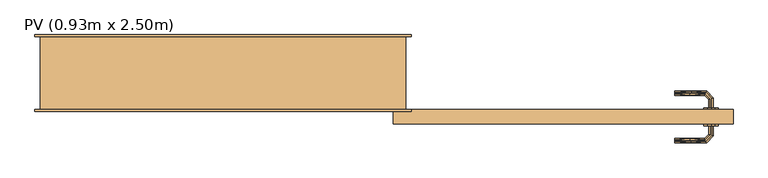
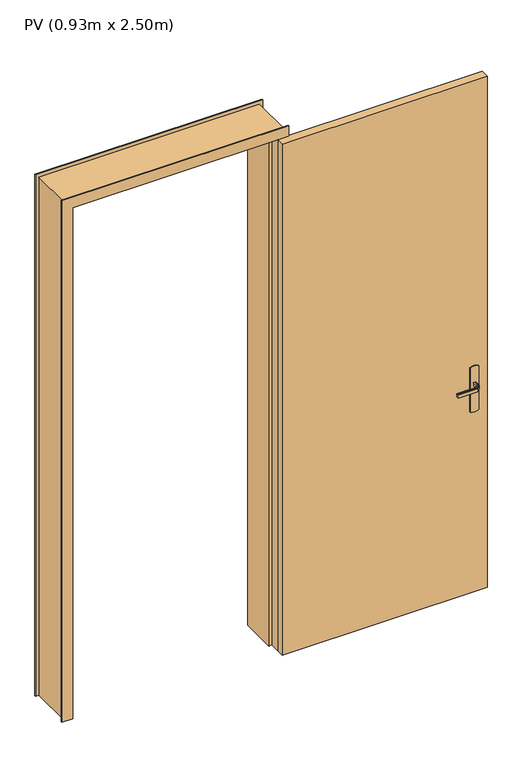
"""IFC4 building model written with IfcOpenShell, lengths in millimetres: door geometry, PV (0.93m x 2.50m)."""

from ifc_helpers import new_model, si_unit, frame, origin, origin_with_axes, place, context, project, spatial, polyline, outline, extrude, faceted_brep, source, transform, mapped, element, save


def pv_0_93m_x_2_50m_4ef5aaf7(model_context):
    return source(origin(), model_context, "Body", "SolidModel", [
        faceted_brep([(0.0, 200.0, 0.0), (-15.0, 200.0, 0.0), (-15.0, 205.0, 0.0), (50.0, 205.0, 0.0), (50.0, 40.0, 0.0), (35.0, 40.0, 0.0), (35.0, -5.0, 0.0), (-15.0, -5.0, 0.0), (-15.0, 0.0, 0.0), (0.0, 0.0, 0.0), (0.0, 200.0, 2485.0), (1000.0, 200.0, 2485.0), (1000.0, 200.0, 0.0), (1015.0, 200.0, 0.0), (1015.0, 200.0, 2500.0), (-15.0, 200.0, 2500.0), (-15.0, 205.0, 2500.0), (1015.0, 205.0, 2500.0), (1015.0, 205.0, 0.0), (950.0, 205.0, 0.0), (950.0, 205.0, 2435.0), (50.0, 205.0, 2435.0), (50.0, 40.0, 2435.0), (950.0, 40.0, 2435.0), (950.0, 40.0, 0.0), (965.0, 40.0, 0.0), (965.0, 40.0, 2450.0), (35.0, 40.0, 2450.0), (35.0, -5.0, 2450.0), (965.0, -5.0, 2450.0), (965.0, -5.0, 0.0), (1015.0, -5.0, 0.0), (1015.0, -5.0, 2500.0), (-15.0, -5.0, 2500.0), (-15.0, 0.0, 2500.0), (1015.0, 0.0, 2500.0), (1015.0, 0.0, 0.0), (1000.0, 0.0, 0.0), (1000.0, 0.0, 2485.0), (0.0, 0.0, 2485.0)], [[[0, 1, 2, 3, 4, 5, 6, 7, 8, 9]], [[1, 0, 10, 11, 12, 13, 14, 15]], [[2, 1, 15, 16]], [[3, 2, 16, 17, 18, 19, 20, 21]], [[3, 21, 22, 4]], [[5, 4, 22, 23, 24, 25, 26, 27]], [[5, 27, 28, 6]], [[7, 6, 28, 29, 30, 31, 32, 33]], [[8, 7, 33, 34]], [[9, 8, 34, 35, 36, 37, 38, 39]], [[0, 9, 39, 10]], [[11, 38, 37, 12]], [[12, 37, 36, 31, 30, 25, 24, 19, 18, 13]], [[17, 14, 13, 18]], [[23, 20, 19, 24]], [[29, 26, 25, 30]], [[35, 32, 31, 36]], [[16, 15, 14, 17]], [[22, 21, 20, 23]], [[28, 27, 26, 29]], [[34, 33, 32, 35]], [[10, 39, 38, 11]]]),
        extrude(outline(polyline([(1083.9960169, 1824.6472382), (1080.0, 1815.0), (870.0, 1815.0), (866.0039831, 1824.6472382), (864.6410162, 1835.0), (866.0039831, 1845.3527618), (870.0, 1855.0), (1080.0, 1855.0), (1083.9960169, 1845.3527618), (1085.3589838, 1835.0), (1083.9960169, 1824.6472382)])), frame((0.0, 0.0, 0.0), z_axis=(0.0, 1.0, 0.0), x_axis=(0.0, 0.0, 1.0)), (0.0, 0.0, 1.0), 5.0),
        faceted_brep([(1837.0252987, 5.0, 1007.7804408), (1832.9747013, 5.0, 1007.7804408), (1829.0, 5.0, 1007.0), (1829.0, 5.0, 993.0), (1832.9747013, 5.0, 992.2195592), (1837.0252987, 5.0, 992.2195592), (1841.0, 5.0, 993.0), (1841.0, 5.0, 1007.0), (1841.0, 32.6509507, 1007.0), (1837.0252987, 31.0045755, 1007.7804408), (1820.9764148, 47.0534593, 1007.7804408), (1819.2986025, 43.002862, 1007.7804408), (1832.9747013, 29.3267632, 1007.7804408), (1829.0, 27.680388, 1007.0), (1829.0, 27.680388, 993.0), (1832.9747013, 29.3267632, 992.2195592), (1819.2986025, 43.002862, 992.2195592), (1820.9764148, 47.0534593, 992.2195592), (1837.0252987, 31.0045755, 992.2195592), (1841.0, 32.6509507, 993.0), (1822.62279, 51.0281607, 1007.0), (1817.6522273, 39.0281607, 1007.0), (1817.6522273, 39.0281607, 993.0), (1822.62279, 51.0281607, 993.0), (1734.9813594, 51.0281607, 993.0), (1734.9813594, 47.0534593, 992.2195592), (1734.9813594, 43.002862, 992.2195592), (1734.9813594, 39.0281607, 993.0), (1734.9813594, 39.0281607, 1007.0), (1734.9813594, 43.002862, 1007.7804408), (1734.9813594, 47.0534593, 1007.7804408), (1734.9813594, 51.0281607, 1007.0), (1782.6923028, 51.0281607, 1007.0), (1777.1399809, 45.0281607, 1007.8786868), (1776.3167933, 39.0281607, 1007.0), (1776.3167933, 39.0281607, 993.0), (1777.1399811, 45.0281608, 992.1213132), (1782.6922998, 51.0281607, 993.0)], [[[0, 1, 2, 3, 4, 5, 6, 7]], [[8, 9, 0, 7]], [[9, 10, 11, 12, 1, 0]], [[12, 13, 2, 1]], [[3, 2, 13, 14]], [[14, 15, 4, 3]], [[15, 16, 17, 18, 5, 4]], [[18, 19, 6, 5]], [[7, 6, 19, 8]], [[20, 10, 9, 8]], [[11, 21, 13, 12]], [[14, 13, 21, 22]], [[22, 16, 15, 14]], [[17, 23, 19, 18]], [[8, 19, 23, 20]], [[24, 25, 26, 27, 28, 29, 30, 31]], [[32, 30, 33]], [[31, 30, 32]], [[10, 20, 32]], [[33, 34, 11]], [[21, 11, 34]], [[34, 29, 28]], [[30, 29, 33]], [[29, 34, 33]], [[10, 32, 33]], [[10, 33, 11]], [[22, 21, 34, 28, 27, 35]], [[35, 26, 36]], [[37, 36, 25]], [[22, 35, 16]], [[35, 27, 26]], [[24, 37, 25]], [[23, 17, 37]], [[37, 17, 36]], [[17, 16, 36]], [[16, 35, 36]], [[25, 36, 26]], [[20, 23, 37, 24, 31, 32]]]),
        extrude(outline(polyline([(1895.0, -40.0), (965.0, -40.0), (965.0, 0.0), (1895.0, 0.0), (1895.0, -40.0)])), origin_with_axes(), (0.0, 0.0, 1.0), 2450.0),
        extrude(outline(polyline([(1083.9960169, 1824.6472382), (1080.0, 1815.0), (870.0, 1815.0), (866.0039831, 1824.6472382), (864.6410162, 1835.0), (866.0039831, 1845.3527618), (870.0, 1855.0), (1080.0, 1855.0), (1083.9960169, 1845.3527618), (1085.3589838, 1835.0), (1083.9960169, 1824.6472382)])), frame((0.0, -45.0, 0.0), z_axis=(0.0, 1.0, 0.0), x_axis=(0.0, 0.0, 1.0)), (0.0, 0.0, 1.0), 5.0),
        faceted_brep([(1837.0252987, -45.0, 1007.7804408), (1841.0, -45.0, 1007.0), (1841.0, -45.0, 993.0), (1837.0252987, -45.0, 992.2195592), (1832.9747013, -45.0, 992.2195592), (1829.0, -45.0, 993.0), (1829.0, -45.0, 1007.0), (1832.9747013, -45.0, 1007.7804408), (1829.0, -67.4852045, 993.0), (1829.0, -67.4852045, 1007.0), (1832.9747013, -69.1315797, 1007.7804408), (1819.1610938, -82.9451872, 1007.7804408), (1820.8389062, -86.9957845, 1007.7804408), (1837.0252987, -70.8093921, 1007.7804408), (1841.0, -72.4557673, 1007.0), (1841.0, -72.4557673, 993.0), (1837.0252987, -70.8093921, 992.2195592), (1820.8389062, -86.9957845, 992.2195592), (1819.1610938, -82.9451872, 992.2195592), (1832.9747013, -69.1315797, 992.2195592), (1817.5147186, -78.9704859, 993.0), (1817.5147186, -78.9704859, 1007.0), (1822.4852814, -90.9704859, 1007.0), (1822.4852814, -90.9704859, 993.0), (1734.9542163, -78.9704859, 993.0), (1734.9542163, -82.9451872, 992.2195592), (1734.9542163, -86.9957845, 992.2195592), (1734.9542163, -90.9704859, 993.0), (1734.9542163, -90.9704859, 1007.0), (1734.9542163, -86.9957845, 1007.7804408), (1734.9542163, -82.9451872, 1007.7804408), (1734.9542163, -78.9704859, 1007.0), (1776.2344794, -78.9704859, 993.0), (1776.2344675, -78.9704859, 1007.0), (1777.0576551, -84.9704859, 1007.8786868), (1782.5547942, -90.9704859, 1007.0), (1782.5547957, -90.9704859, 993.0), (1777.0576549, -84.9704858, 992.1213132)], [[[0, 1, 2, 3, 4, 5, 6, 7]], [[6, 5, 8, 9]], [[9, 10, 7, 6]], [[10, 11, 12, 13, 0, 7]], [[13, 14, 1, 0]], [[2, 1, 14, 15]], [[15, 16, 3, 2]], [[16, 17, 18, 19, 4, 3]], [[19, 8, 5, 4]], [[9, 8, 20, 21]], [[21, 11, 10, 9]], [[12, 22, 14, 13]], [[15, 14, 22, 23]], [[23, 17, 16, 15]], [[18, 20, 8, 19]], [[24, 25, 26, 27, 28, 29, 30, 31]], [[21, 20, 32, 24, 31, 33]], [[33, 30, 34]], [[35, 34, 29]], [[21, 33, 11]], [[33, 31, 30]], [[28, 35, 29]], [[22, 12, 35]], [[35, 12, 34]], [[12, 11, 34]], [[11, 33, 34]], [[29, 34, 30]], [[22, 35, 28, 27, 36, 23]], [[36, 26, 37]], [[27, 26, 36]], [[17, 23, 36]], [[37, 32, 18]], [[20, 18, 32]], [[32, 25, 24]], [[26, 25, 37]], [[25, 32, 37]], [[17, 36, 37]], [[17, 37, 18]]]),
    ])


if __name__ == "__main__":
    model = new_model("IFC4")
    model_context = context("Model", 3, world=origin())
    ifc_project = project(units=[si_unit("LENGTHUNIT", "METRE", prefix="MILLI")], contexts=[model_context])
    site = spatial("IfcSite", under=ifc_project)
    building = spatial("IfcBuilding", under=site)
    placement = place(None, origin())
    pv_0_93m_x_2_50m_shape = pv_0_93m_x_2_50m_4ef5aaf7(model_context)
    element("IfcDoor", 1, ObjectType="PV (0.93m x 2.50m)", at=placement, inside=building, context=model_context, shape_type="MappedRepresentation", body=[
        mapped(pv_0_93m_x_2_50m_shape, transform((0.0, 0.0, 0.0), x_axis=(1.0, 0.0, 0.0), y_axis=(0.0, 1.0, 0.0), z_axis=(0.0, 0.0, 1.0))),
    ])
    save(model, "model.ifc")
